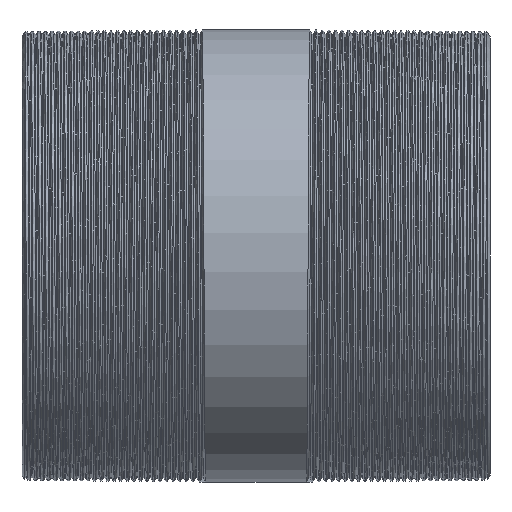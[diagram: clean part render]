
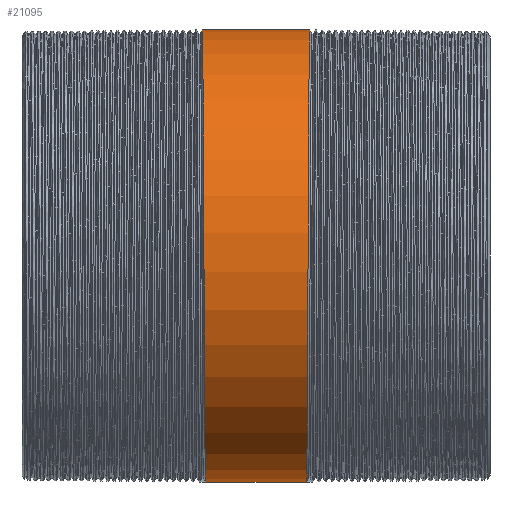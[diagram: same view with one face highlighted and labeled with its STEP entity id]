
A CAD part, front view. The second image highlights one B-rep face of the part: STEP entity #21095.
In plain terms, the highlighted cylindrical face has radius 24.15 mm (diameter 48.3 mm), a partial arc.
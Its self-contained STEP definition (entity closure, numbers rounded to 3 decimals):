
#221 = VECTOR ( 'NONE', #8613, 1000. ) ;
#698 = FACE_OUTER_BOUND ( 'NONE', #21638, .T. ) ;
#776 = CARTESIAN_POINT ( 'NONE',  ( 5.679, -13.943, 24.15 ) ) ;
#1224 = CARTESIAN_POINT ( 'NONE',  ( -5.738, 0., 24.15 ) ) ;
#1741 = VERTEX_POINT ( 'NONE', #10419 ) ;
#2206 = CARTESIAN_POINT ( 'NONE',  ( 5.621, -20.915, 12.075 ) ) ;
#2218 = EDGE_CURVE ( 'NONE', #4326, #1741, #11477, .T. ) ;
#3215 = CARTESIAN_POINT ( 'NONE',  ( 5.388, 0., -24.15 ) ) ;
#4326 = VERTEX_POINT ( 'NONE', #3215 ) ;
#4968 = ORIENTED_EDGE ( 'NONE', *, *, #19105, .T. ) ;
#5559 = CYLINDRICAL_SURFACE ( 'NONE', #17547, 24.15 ) ;
#6092 = CARTESIAN_POINT ( 'NONE',  ( -5.679, -13.943, 24.15 ) ) ;
#6594 = ORIENTED_EDGE ( 'NONE', *, *, #14752, .F. ) ;
#7051 = EDGE_CURVE ( 'NONE', #4326, #13203, #8825, .T. ) ;
#8190 = CARTESIAN_POINT ( 'NONE',  ( -5.563, -27.886, 0. ) ) ;
#8613 = DIRECTION ( 'NONE',  ( -1., 0., 0. ) ) ;
#8690 = VECTOR ( 'NONE', #13313, 1000. ) ;
#8825 = LINE ( 'NONE', #10594, #221 ) ;
#9292 = CARTESIAN_POINT ( 'NONE',  ( 5.446, -13.943, -24.15 ) ) ;
#9658 = CARTESIAN_POINT ( 'NONE',  ( -149.494, 0., 24.15 ) ) ;
#10419 = CARTESIAN_POINT ( 'NONE',  ( 5.738, 0., 24.15 ) ) ;
#10594 = CARTESIAN_POINT ( 'NONE',  ( -149.494, 0., -24.15 ) ) ;
#11477 =( BOUNDED_CURVE ( )  B_SPLINE_CURVE ( 2, ( #15937, #9292, #15708, #17375, #2206, #776, #12272 ),
 .UNSPECIFIED., .F., .T. ) 
 B_SPLINE_CURVE_WITH_KNOTS ( ( 3, 2, 2, 3 ),
 ( 0., 0.006, 0.011, 0.017 ),
 .UNSPECIFIED. ) 
 CURVE ( )  GEOMETRIC_REPRESENTATION_ITEM ( )  RATIONAL_B_SPLINE_CURVE ( ( 1., 0.866, 1., 0.866, 1., 0.866, 1. ) ) 
 REPRESENTATION_ITEM ( '' )  );
#12272 = CARTESIAN_POINT ( 'NONE',  ( 5.738, 0., 24.15 ) ) ;
#12308 = CARTESIAN_POINT ( 'NONE',  ( -149.494, 0., 0. ) ) ;
#13177 = CARTESIAN_POINT ( 'NONE',  ( -5.388, 0., -24.15 ) ) ;
#13203 = VERTEX_POINT ( 'NONE', #18249 ) ;
#13313 = DIRECTION ( 'NONE',  ( -1., 0., 0. ) ) ;
#14659 = ORIENTED_EDGE ( 'NONE', *, *, #7051, .F. ) ;
#14752 = EDGE_CURVE ( 'NONE', #13203, #19092, #18281, .T. ) ;
#14943 = CARTESIAN_POINT ( 'NONE',  ( -5.621, -20.915, 12.075 ) ) ;
#15400 = ORIENTED_EDGE ( 'NONE', *, *, #2218, .T. ) ;
#15708 = CARTESIAN_POINT ( 'NONE',  ( 5.504, -20.915, -12.075 ) ) ;
#15937 = CARTESIAN_POINT ( 'NONE',  ( 5.388, 0., -24.15 ) ) ;
#16079 = DIRECTION ( 'NONE',  ( 0., 0., 1. ) ) ;
#17375 = CARTESIAN_POINT ( 'NONE',  ( 5.563, -27.886, 0. ) ) ;
#17547 = AXIS2_PLACEMENT_3D ( 'NONE', #12308, #19060, #16079 ) ;
#18048 = CARTESIAN_POINT ( 'NONE',  ( -5.504, -20.915, -12.075 ) ) ;
#18073 = LINE ( 'NONE', #9658, #8690 ) ;
#18249 = CARTESIAN_POINT ( 'NONE',  ( -5.388, 0., -24.15 ) ) ;
#18281 =( BOUNDED_CURVE ( )  B_SPLINE_CURVE ( 2, ( #13177, #21267, #18048, #8190, #14943, #6092, #1224 ),
 .UNSPECIFIED., .F., .F. ) 
 B_SPLINE_CURVE_WITH_KNOTS ( ( 3, 2, 2, 3 ),
 ( 0., 0.006, 0.011, 0.017 ),
 .UNSPECIFIED. ) 
 CURVE ( )  GEOMETRIC_REPRESENTATION_ITEM ( )  RATIONAL_B_SPLINE_CURVE ( ( 1., 0.866, 1., 0.866, 1., 0.866, 1. ) ) 
 REPRESENTATION_ITEM ( '' )  );
#18508 = CARTESIAN_POINT ( 'NONE',  ( -5.738, 0., 24.15 ) ) ;
#19060 = DIRECTION ( 'NONE',  ( -1., 0., 0. ) ) ;
#19092 = VERTEX_POINT ( 'NONE', #18508 ) ;
#19105 = EDGE_CURVE ( 'NONE', #1741, #19092, #18073, .T. ) ;
#21095 = ADVANCED_FACE ( 'NONE', ( #698 ), #5559, .T. ) ;
#21267 = CARTESIAN_POINT ( 'NONE',  ( -5.446, -13.943, -24.15 ) ) ;
#21638 = EDGE_LOOP ( 'NONE', ( #14659, #15400, #4968, #6594 ) ) ;
